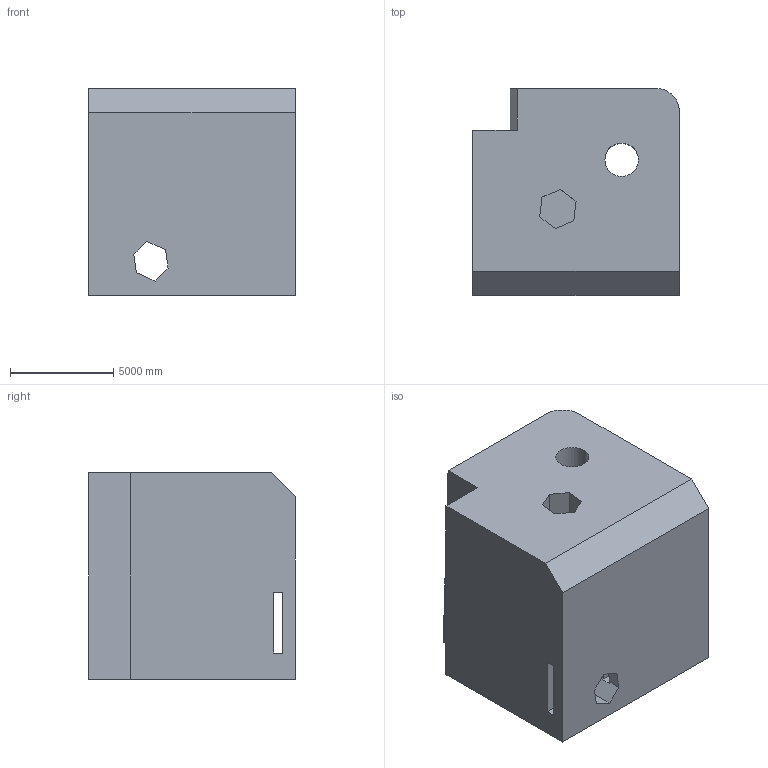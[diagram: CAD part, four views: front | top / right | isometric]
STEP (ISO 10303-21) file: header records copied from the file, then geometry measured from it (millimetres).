
FILE_DESCRIPTION (( 'STEP AP203' ), '1' );
FILE_NAME ('68.STEP', '2022-09-01T14:13:30', ( 'user' ), ( '' ), 'SwSTEP 2.0', 'SolidWorks 2021', '' );
FILE_SCHEMA (( 'CONFIG_CONTROL_DESIGN' ));
Length unit declared in the file: centimetre
Products named in the file (1): 68
Bounding box: 10000 x 10000 x 10000 mm (x, y, z)
Volume: 888510125936.7 mm3; surface area: 752070934.2 mm2
Topology: 1 solids, 1 shells, 33 faces, 96 edges, 64 vertices
Faces by surface type: plane 30, cylinder 3
Entity records: 1169 total; most frequent: CARTESIAN_POINT 194, ORIENTED_EDGE 192, DIRECTION 170, EDGE_CURVE 96, VECTOR 90, LINE 90, VERTEX_POINT 64, EDGE_LOOP 40
